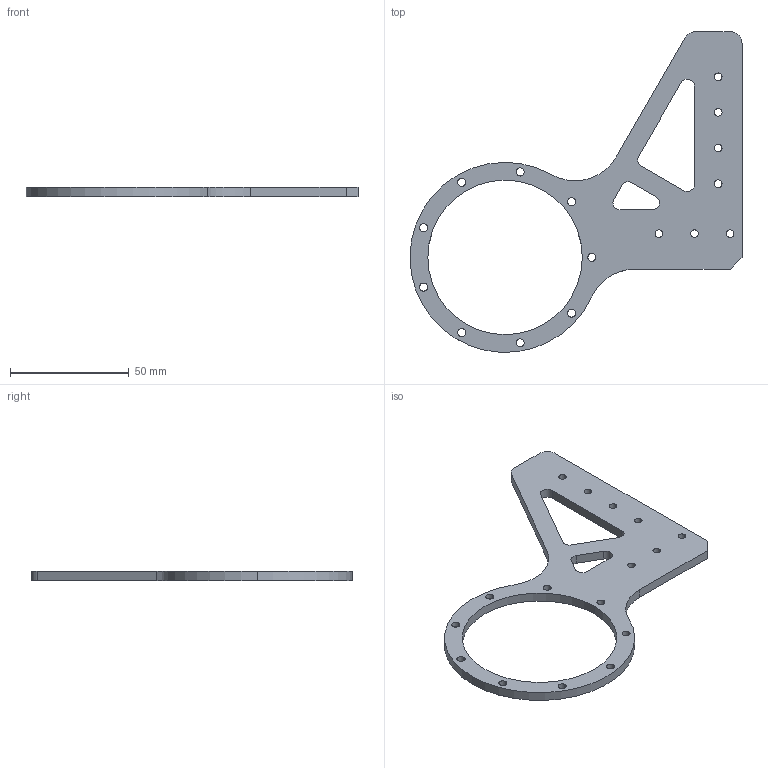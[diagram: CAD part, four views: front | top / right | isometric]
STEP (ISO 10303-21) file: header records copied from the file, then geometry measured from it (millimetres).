
FILE_DESCRIPTION (( 'STEP AP203' ), '1' );
FILE_NAME ('镜向碳板-电机内部固定-11.STEP', '2026-07-29T04:27:27', ( '' ), ( '' ), 'SwSTEP 2.0', 'SolidWorks 2025', '' );
FILE_SCHEMA (( 'CONFIG_CONTROL_DESIGN' ));
Length unit declared in the file: millimetre
Products named in the file (1): 镜向碳板-电机内部固定-11
Bounding box: 139.69 x 134.96 x 4 mm (x, y, z)
Volume: 22403.1 mm3; surface area: 15287 mm2
Topology: 1 solids, 1 shells, 93 faces, 241 edges, 150 vertices
Faces by surface type: cylinder 48, cone 32, plane 13
Entity records: 3020 total; most frequent: DIRECTION 557, CARTESIAN_POINT 485, ORIENTED_EDGE 482, EDGE_CURVE 241, AXIS2_PLACEMENT_3D 222, VERTEX_POINT 150, EDGE_LOOP 131, CIRCLE 128
